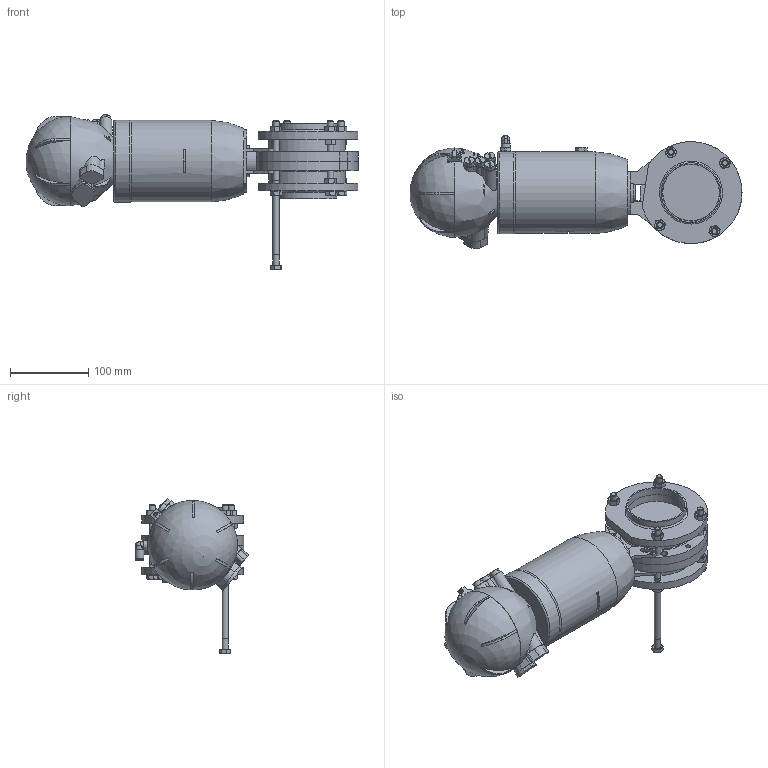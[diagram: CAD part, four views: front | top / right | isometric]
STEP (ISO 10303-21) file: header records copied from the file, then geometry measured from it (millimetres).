
FILE_DESCRIPTION(/* description */ ('ZVF V.FARF.DN76.2X1.65 WAF4 MACH98 SE NC 316 EPDM'),/* implementation_level */ '2;1');
FILE_NAME(/* name */ 'C:\_DED_PWS\MARZ-M\DB\B\EAA\BEAAD9300BEBF-00^SAGOMA.step',/* time_stamp */ '2025-08-06T11:18:34+02:00',/* author */ (''),/* organization */ (''),/* preprocessor_version */ 'ST-DEVELOPER v20',/* originating_system */ 'Autodesk Inventor 2022',/* authorisation */ '');
FILE_SCHEMA (('CONFIG_CONTROL_DESIGN'));
Length unit declared in the file: millimetre
Products named in the file (9): BEAAD9300BEBF; 3DAAJGIOAA007; 3DAAZVFAA054; Supporto-farf-DN80-100-; RBIAA.M08; RBAAA08X90; RBIAA.M08_1; TWD031300BBA; TPM022300BBA
Assembly tree (20 placements, depth 2):
  BEAAD9300BEBF
    3DAAJGIOAA007
    3DAAZVFAA054
    Supporto-farf-DN80-100-
    RBAAA08X90  x5
    RBIAA.M08_1  x6
    RBIAA.M08  x2
    TPM022300BBA  x2
    TWD031300BBA  x2
Bounding box: 423.46 x 144.48 x 197.44 mm (x, y, z)
Volume: 2997351.3 mm3; surface area: 306446.5 mm2
Topology: 21 solids, 21 shells, 1346 faces, 3456 edges, 2223 vertices
Faces by surface type: plane 889, cone 211, cylinder 173, bspline 56, torus 16, sphere 1
Full cylindrical faces by diameter (mm): 3 x2, 4 x1, 4.917 x12, 5 x1, 6 x2, 6.2 x16, 7 x5, 8 x19, 8.2 x12, 8.3 x1, 8.566 x3, 9.728 x1, 10 x1, 10.106 x1, 11 x1, 11.5 x1, 13 x9, 14.918 x1, 18 x1, 26 x1, 30 x2, 30.3 x1, 32 x1, 72.9 x2, 76.2 x2, 97.8 x1, 98 x3, 104 x1, 105 x1
Entity records: 37165 total; most frequent: CARTESIAN_POINT 8801, DIRECTION 5950, ORIENTED_EDGE 5670, EDGE_CURVE 2835, AXIS2_PLACEMENT_3D 2414, VERTEX_POINT 1868, EDGE_LOOP 1197, LINE 1122
